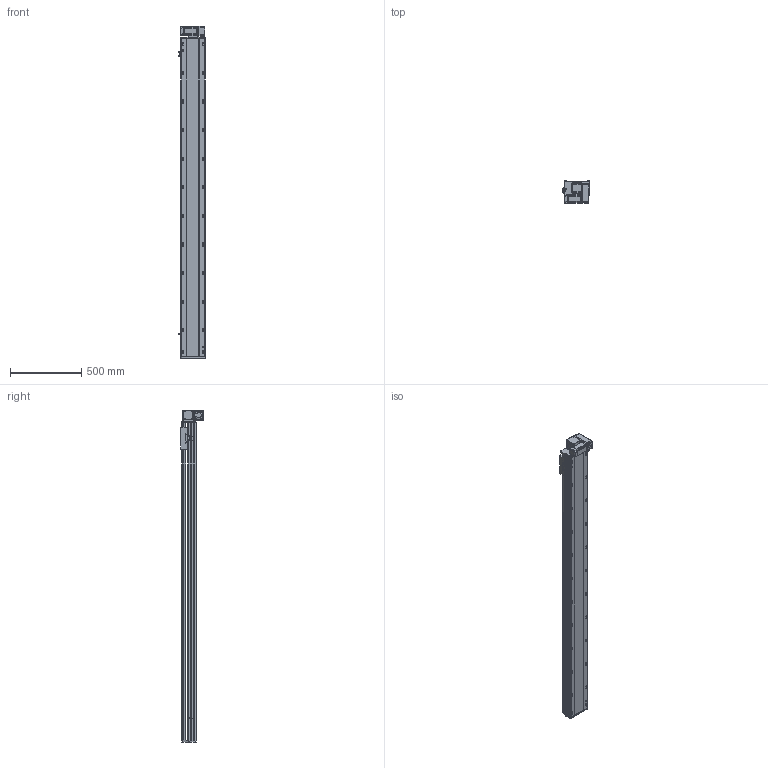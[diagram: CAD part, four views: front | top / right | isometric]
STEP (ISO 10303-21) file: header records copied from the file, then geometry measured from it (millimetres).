
FILE_DESCRIPTION (( 'STEP AP214' ), '1' );
FILE_NAME ('RTB17S-XX-1950-RM-M40-C4.STEP', '2025-12-11T08:24:26', ( '' ), ( '' ), 'SwSTEP 2.0', 'SolidWorks 2018', '' );
FILE_SCHEMA (( 'AUTOMOTIVE_DESIGN' ));
Length unit declared in the file: millimetre
Products named in the file (14): RTB14-L-017P^RTB17S-RM-々湍釱蚾饜-400W_RTB17S-XX-XX-RM-M40-C4; RTB17S-RM-々湍釱蚾饜-400W^RTB17S-XX-XX-RM-M40-C4; RTB14-L-008-M20--萇儂啣^RTB17S-RM-々湍釱蚾饜-400W_RTB17S-XX-XX-RM-M40-C4; RTB17S-L-007奻裔^RTB17S-XX-XX-RM-M40-C4; OMRON EE-SX672 传感器^RTB17S-XX-XX-RM-M40-C4; RTB14-L-005P--轴承塑胶压盖^RTB17S-RM-皮带座装配-400W_RTB17S-XX-XX-RM-M40-C4; RTH13-BL-012覜茼え俋离^RTB17S-XX-XX-RM-M40-C4; RTB17S-L-001耜醱啣^RTB17S-XX-XX-RM-M40-C4; RTB14-L-018P^RTB17S-RM-々湍釱蚾饜-400W_RTB17S-XX-XX-RM-M40-C4; 400W侜督萇儂^RTB17S-XX-XX-RM-M40-C4; RTB17-R-011菁釱^RTB17S-XX-XX-RM-M40-C4; RTB17S-XX-1950-RM-M40-C4; RTB17S-L-014-T20--々湍釱^RTB17S-RM-々湍釱蚾饜-400W_RTB17S-XX-XX-RM-M40-C4; RTB17S-L-004佪裝蹟譫蟀諉釱^RTB17S-XX-XX-RM-M40-C4
Assembly tree (16 placements, depth 3):
  RTB17S-XX-1950-RM-M40-C4
    RTB17-R-011菁釱^RTB17S-XX-XX-RM-M40-C4
    RTB17S-L-007奻裔^RTB17S-XX-XX-RM-M40-C4
    OMRON EE-SX672 传感器^RTB17S-XX-XX-RM-M40-C4  x3
    RTB17S-L-001耜醱啣^RTB17S-XX-XX-RM-M40-C4
    400W侜督萇儂^RTB17S-XX-XX-RM-M40-C4
    RTB17S-L-004佪裝蹟譫蟀諉釱^RTB17S-XX-XX-RM-M40-C4
    RTH13-BL-012覜茼え俋离^RTB17S-XX-XX-RM-M40-C4
    RTB17S-RM-々湍釱蚾饜-400W^RTB17S-XX-XX-RM-M40-C4
      RTB17S-L-014-T20--々湍釱^RTB17S-RM-々湍釱蚾饜-400W_RTB17S-XX-XX-RM-M40-C4
      RTB14-L-005P--轴承塑胶压盖^RTB17S-RM-皮带座装配-400W_RTB17S-XX-XX-RM-M40-C4
      RTB14-L-008-M20--萇儂啣^RTB17S-RM-々湍釱蚾饜-400W_RTB17S-XX-XX-RM-M40-C4
      RTB14-L-017P^RTB17S-RM-々湍釱蚾饜-400W_RTB17S-XX-XX-RM-M40-C4  x2
      RTB14-L-018P^RTB17S-RM-々湍釱蚾饜-400W_RTB17S-XX-XX-RM-M40-C4
Bounding box: 183.5 x 156.5 x 2322.5 mm (x, y, z)
Volume: 20121525.5 mm3; surface area: 2342891.7 mm2
Topology: 15 solids, 15 shells, 2285 faces, 6357 edges, 4149 vertices
Faces by surface type: plane 1078, cylinder 759, bspline 301, cone 139, torus 8
Entity records: 66473 total; most frequent: CARTESIAN_POINT 18762, ORIENTED_EDGE 9558, DIRECTION 8846, EDGE_CURVE 4779, VERTEX_POINT 3137, AXIS2_PLACEMENT_3D 3067, VECTOR 2712, LINE 2712
